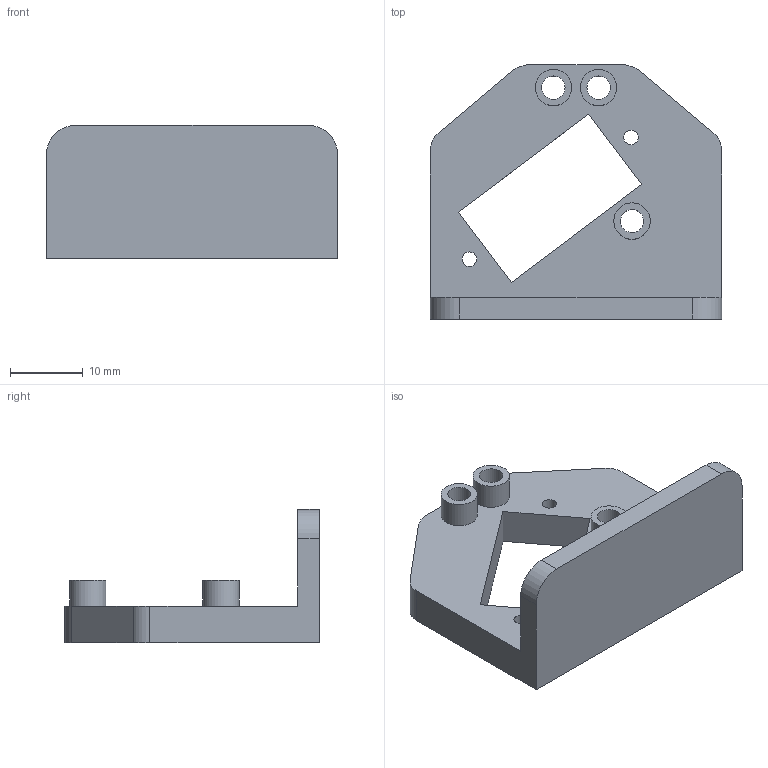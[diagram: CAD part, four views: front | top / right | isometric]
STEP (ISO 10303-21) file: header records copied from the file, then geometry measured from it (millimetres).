
FILE_DESCRIPTION(/* description */ (''),/* implementation_level */ '2;1');
FILE_NAME(/* name */ 'Claw Base V2_v16.tmp.step',/* time_stamp */ '2026-11-01T13:09:33+02:00',/* author */ (''),/* organization */ (''),/* preprocessor_version */ 'ST-DEVELOPER v20.2',/* originating_system */ 'Autodesk Translation Framework v15.15.0.0',/* authorisation */ '');
FILE_SCHEMA (('AUTOMOTIVE_DESIGN { 1 0 10303 214 3 1 1 }'));
Length unit declared in the file: millimetre
Products named in the file (1): Claw Base V2
Bounding box: 40 x 35 x 18.3 mm (x, y, z)
Volume: 6551.8 mm3; surface area: 4575.3 mm2
Topology: 1 solids, 1 shells, 31 faces, 78 edges, 52 vertices
Faces by surface type: plane 17, cylinder 14
Full cylindrical faces by diameter (mm): 2 x2, 3.2 x3, 5 x3
Entity records: 997 total; most frequent: DIRECTION 170, CARTESIAN_POINT 162, ORIENTED_EDGE 156, EDGE_CURVE 78, AXIS2_PLACEMENT_3D 60, VERTEX_POINT 52, LINE 50, VECTOR 50
